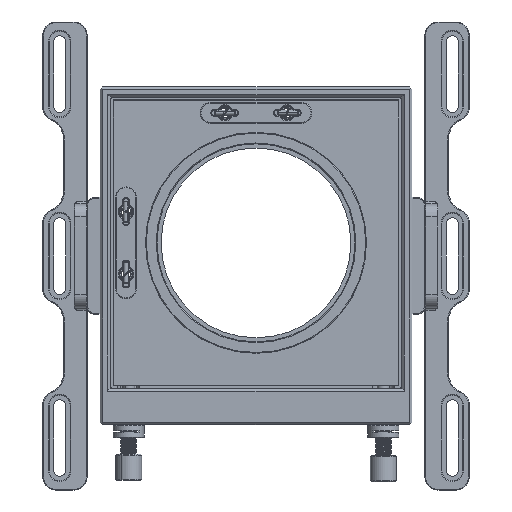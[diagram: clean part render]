
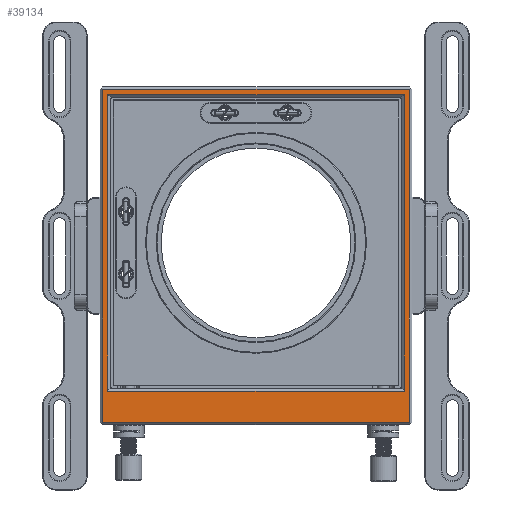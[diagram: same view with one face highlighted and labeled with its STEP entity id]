
A CAD part, top view. The second image highlights one B-rep face of the part: STEP entity #39134.
In plain terms, the highlighted planar face has unit normal (0, 0, 1).
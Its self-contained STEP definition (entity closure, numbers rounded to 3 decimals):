
#1142 = DIRECTION ( 'NONE',  ( 1., 0., 0. ) ) ;
#1894 = DIRECTION ( 'NONE',  ( 1., 0., 0. ) ) ;
#2059 = CARTESIAN_POINT ( 'NONE',  ( 56., 62., 15. ) ) ;
#2215 = EDGE_CURVE ( 'NONE', #19017, #20617, #39828, .T. ) ;
#4766 = VERTEX_POINT ( 'NONE', #12206 ) ;
#5001 = CARTESIAN_POINT ( 'NONE',  ( 57., 62., 15. ) ) ;
#5416 = DIRECTION ( 'NONE',  ( 0., 0., 1. ) ) ;
#5632 = EDGE_LOOP ( 'NONE', ( #25987, #29340, #37295, #30507 ) ) ;
#6225 = VECTOR ( 'NONE', #45013, 1000. ) ;
#6462 = DIRECTION ( 'NONE',  ( 0., 1., 0. ) ) ;
#7471 = VECTOR ( 'NONE', #15713, 1000. ) ;
#8078 = VERTEX_POINT ( 'NONE', #48116 ) ;
#8998 = CARTESIAN_POINT ( 'NONE',  ( -59., -64., 15. ) ) ;
#10475 = LINE ( 'NONE', #29613, #15438 ) ;
#10865 = DIRECTION ( 'NONE',  ( -1., 0., 0. ) ) ;
#11339 = AXIS2_PLACEMENT_3D ( 'NONE', #13467, #5416, #1894 ) ;
#11908 = EDGE_CURVE ( 'NONE', #4766, #30281, #33768, .T. ) ;
#12206 = CARTESIAN_POINT ( 'NONE',  ( 59., 64., 15. ) ) ;
#13467 = CARTESIAN_POINT ( 'NONE',  ( 0., 0., 15. ) ) ;
#14295 = LINE ( 'NONE', #29639, #6225 ) ;
#15102 = EDGE_CURVE ( 'NONE', #20617, #21325, #20915, .T. ) ;
#15438 = VECTOR ( 'NONE', #6462, 1000. ) ;
#15713 = DIRECTION ( 'NONE',  ( 0., -1., 0. ) ) ;
#16768 = VECTOR ( 'NONE', #1142, 1000. ) ;
#18608 = VECTOR ( 'NONE', #10865, 1000. ) ;
#19017 = VERTEX_POINT ( 'NONE', #43958 ) ;
#20011 = CARTESIAN_POINT ( 'NONE',  ( 60., -64., 15. ) ) ;
#20511 = ORIENTED_EDGE ( 'NONE', *, *, #25463, .T. ) ;
#20617 = VERTEX_POINT ( 'NONE', #5001 ) ;
#20759 = EDGE_CURVE ( 'NONE', #21325, #8078, #14295, .T. ) ;
#20915 = LINE ( 'NONE', #21420, #7471 ) ;
#21325 = VERTEX_POINT ( 'NONE', #29388 ) ;
#21420 = CARTESIAN_POINT ( 'NONE',  ( 57., -51., 15. ) ) ;
#21571 = CARTESIAN_POINT ( 'NONE',  ( -59., 64., 15. ) ) ;
#22648 = EDGE_CURVE ( 'NONE', #30281, #33523, #35433, .T. ) ;
#25086 = VECTOR ( 'NONE', #29216, 1000. ) ;
#25463 = EDGE_CURVE ( 'NONE', #8078, #19017, #26855, .T. ) ;
#25715 = CARTESIAN_POINT ( 'NONE',  ( -60., 64., 15. ) ) ;
#25987 = ORIENTED_EDGE ( 'NONE', *, *, #22648, .T. ) ;
#26855 = LINE ( 'NONE', #46007, #42566 ) ;
#29216 = DIRECTION ( 'NONE',  ( 1., 0., 0. ) ) ;
#29306 = FACE_BOUND ( 'NONE', #36232, .T. ) ;
#29340 = ORIENTED_EDGE ( 'NONE', *, *, #32793, .T. ) ;
#29388 = CARTESIAN_POINT ( 'NONE',  ( 57., -52., 15. ) ) ;
#29613 = CARTESIAN_POINT ( 'NONE',  ( 59., 65., 15. ) ) ;
#29639 = CARTESIAN_POINT ( 'NONE',  ( -56., -52., 15. ) ) ;
#30281 = VERTEX_POINT ( 'NONE', #21571 ) ;
#30507 = ORIENTED_EDGE ( 'NONE', *, *, #11908, .T. ) ;
#31189 = ORIENTED_EDGE ( 'NONE', *, *, #20759, .T. ) ;
#32422 = EDGE_CURVE ( 'NONE', #45281, #4766, #10475, .T. ) ;
#32793 = EDGE_CURVE ( 'NONE', #33523, #45281, #47715, .T. ) ;
#33456 = CARTESIAN_POINT ( 'NONE',  ( 59., -64., 15. ) ) ;
#33523 = VERTEX_POINT ( 'NONE', #8998 ) ;
#33768 = LINE ( 'NONE', #25715, #18608 ) ;
#34910 = DIRECTION ( 'NONE',  ( 0., 1., 0. ) ) ;
#35433 = LINE ( 'NONE', #39240, #43250 ) ;
#36232 = EDGE_LOOP ( 'NONE', ( #20511, #48741, #46188, #31189 ) ) ;
#37295 = ORIENTED_EDGE ( 'NONE', *, *, #32422, .T. ) ;
#39134 = ADVANCED_FACE ( 'NONE', ( #29306, #48198 ), #40651, .T. ) ;
#39240 = CARTESIAN_POINT ( 'NONE',  ( -59., -65., 15. ) ) ;
#39828 = LINE ( 'NONE', #2059, #25086 ) ;
#40651 = PLANE ( 'NONE',  #11339 ) ;
#42566 = VECTOR ( 'NONE', #34910, 1000. ) ;
#43250 = VECTOR ( 'NONE', #46297, 1000. ) ;
#43958 = CARTESIAN_POINT ( 'NONE',  ( -57., 62., 15. ) ) ;
#45013 = DIRECTION ( 'NONE',  ( -1., 0., 0. ) ) ;
#45281 = VERTEX_POINT ( 'NONE', #33456 ) ;
#46007 = CARTESIAN_POINT ( 'NONE',  ( -57., 61., 15. ) ) ;
#46188 = ORIENTED_EDGE ( 'NONE', *, *, #15102, .T. ) ;
#46297 = DIRECTION ( 'NONE',  ( 0., -1., 0. ) ) ;
#47715 = LINE ( 'NONE', #20011, #16768 ) ;
#48116 = CARTESIAN_POINT ( 'NONE',  ( -57., -52., 15. ) ) ;
#48198 = FACE_OUTER_BOUND ( 'NONE', #5632, .T. ) ;
#48741 = ORIENTED_EDGE ( 'NONE', *, *, #2215, .T. ) ;
